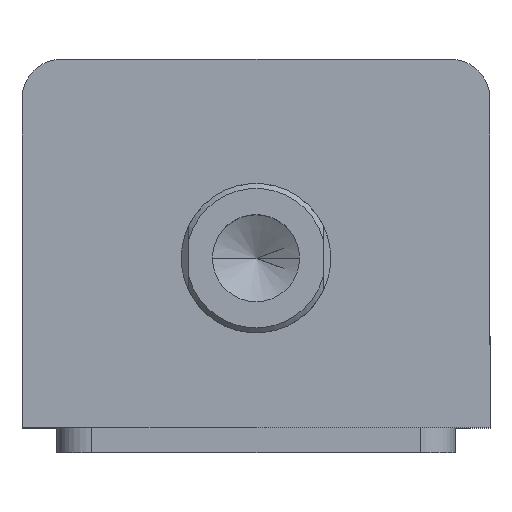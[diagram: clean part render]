
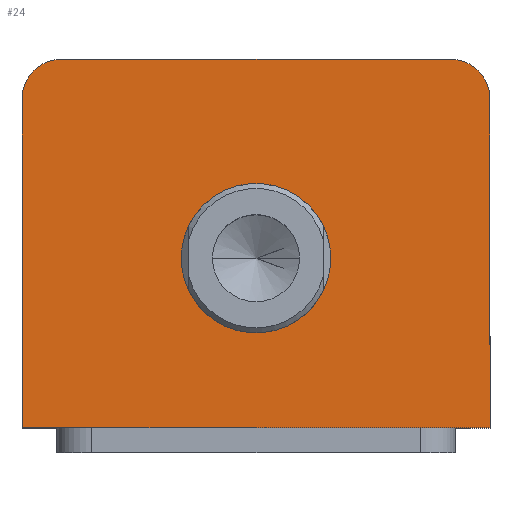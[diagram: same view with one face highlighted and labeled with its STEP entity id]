
A CAD part, top view. The second image highlights one B-rep face of the part: STEP entity #24.
In plain terms, the highlighted planar face has unit normal (0, 0, 1).
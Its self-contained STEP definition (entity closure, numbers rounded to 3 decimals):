
#24 = ADVANCED_FACE ( 'NONE', ( #1703, #1699 ), #2914, .T. ) ;
#120 = CARTESIAN_POINT ( 'NONE',  ( -39., 29., 75. ) ) ;
#136 = DIRECTION ( 'NONE',  ( 0., 0., 1. ) ) ;
#138 = CARTESIAN_POINT ( 'NONE',  ( 39., 29., 75. ) ) ;
#143 = DIRECTION ( 'NONE',  ( 1., 0., 0. ) ) ;
#152 = DIRECTION ( 'NONE',  ( 1., 0., 0. ) ) ;
#157 = DIRECTION ( 'NONE',  ( 0., 0., 1. ) ) ;
#200 = CIRCLE ( 'NONE', #1996, 15. ) ;
#427 = DIRECTION ( 'NONE',  ( 1., 0., 0. ) ) ;
#519 = CARTESIAN_POINT ( 'NONE',  ( 0., -3., 75. ) ) ;
#520 = DIRECTION ( 'NONE',  ( 0., 0., 1. ) ) ;
#521 = DIRECTION ( 'NONE',  ( 1., 0., 0. ) ) ;
#566 = CARTESIAN_POINT ( 'NONE',  ( -15., -3., 75. ) ) ;
#587 = CARTESIAN_POINT ( 'NONE',  ( 15., -3., 75. ) ) ;
#625 = CARTESIAN_POINT ( 'NONE',  ( -39., 37., 75. ) ) ;
#626 = CARTESIAN_POINT ( 'NONE',  ( -47., -37., 75. ) ) ;
#633 = CARTESIAN_POINT ( 'NONE',  ( -47., 29., 75. ) ) ;
#646 = CARTESIAN_POINT ( 'NONE',  ( 47., -37., 75. ) ) ;
#671 = CARTESIAN_POINT ( 'NONE',  ( 47., 29., 75. ) ) ;
#675 = CARTESIAN_POINT ( 'NONE',  ( 39., 37., 75. ) ) ;
#817 = CARTESIAN_POINT ( 'NONE',  ( 47., 37., 75. ) ) ;
#826 = AXIS2_PLACEMENT_3D ( 'NONE', #2919, #2905, #2904 ) ;
#912 = LINE ( 'NONE', #817, #914 ) ;
#914 = VECTOR ( 'NONE', #2794, 1000. ) ;
#1015 = EDGE_LOOP ( 'NONE', ( #2465, #2466, #2467, #2468, #2469, #2470 ) ) ;
#1040 = CARTESIAN_POINT ( 'NONE',  ( -47., -37., 75. ) ) ;
#1125 = EDGE_CURVE ( 'NONE', #1335, #1312, #1447, .T. ) ;
#1139 = EDGE_CURVE ( 'NONE', #2955, #2947, #1431, .T. ) ;
#1162 = EDGE_CURVE ( 'NONE', #2946, #2955, #1923, .T. ) ;
#1171 = EDGE_CURVE ( 'NONE', #2999, #3003, #1916, .T. ) ;
#1184 = EDGE_CURVE ( 'NONE', #3003, #2946, #2779, .T. ) ;
#1199 = EDGE_CURVE ( 'NONE', #2980, #2999, #912, .T. ) ;
#1214 = EDGE_CURVE ( 'NONE', #2947, #2980, #1874, .T. ) ;
#1251 = EDGE_CURVE ( 'NONE', #1312, #1335, #200, .T. ) ;
#1312 = VERTEX_POINT ( 'NONE', #566 ) ;
#1335 = VERTEX_POINT ( 'NONE', #587 ) ;
#1421 = VECTOR ( 'NONE', #2176, 1000. ) ;
#1431 = LINE ( 'NONE', #2201, #1421 ) ;
#1438 = DIRECTION ( 'NONE',  ( -1., 0., 0. ) ) ;
#1447 = CIRCLE ( 'NONE', #1947, 15. ) ;
#1452 = CARTESIAN_POINT ( 'NONE',  ( -47., 37., 75. ) ) ;
#1699 = FACE_OUTER_BOUND ( 'NONE', #1015, .T. ) ;
#1703 = FACE_BOUND ( 'NONE', #2416, .T. ) ;
#1873 = VECTOR ( 'NONE', #427, 1000. ) ;
#1874 = LINE ( 'NONE', #1040, #1873 ) ;
#1916 = CIRCLE ( 'NONE', #1967, 8. ) ;
#1923 = CIRCLE ( 'NONE', #1960, 8. ) ;
#1947 = AXIS2_PLACEMENT_3D ( 'NONE', #2207, #2206, #2205 ) ;
#1960 = AXIS2_PLACEMENT_3D ( 'NONE', #120, #136, #143 ) ;
#1967 = AXIS2_PLACEMENT_3D ( 'NONE', #138, #157, #152 ) ;
#1996 = AXIS2_PLACEMENT_3D ( 'NONE', #519, #520, #521 ) ;
#2176 = DIRECTION ( 'NONE',  ( 0., -1., 0. ) ) ;
#2201 = CARTESIAN_POINT ( 'NONE',  ( -47., 37., 75. ) ) ;
#2205 = DIRECTION ( 'NONE',  ( 1., 0., 0. ) ) ;
#2206 = DIRECTION ( 'NONE',  ( 0., 0., 1. ) ) ;
#2207 = CARTESIAN_POINT ( 'NONE',  ( 0., -3., 75. ) ) ;
#2416 = EDGE_LOOP ( 'NONE', ( #2463, #2464 ) ) ;
#2463 = ORIENTED_EDGE ( 'NONE', *, *, #1125, .F. ) ;
#2464 = ORIENTED_EDGE ( 'NONE', *, *, #1251, .F. ) ;
#2465 = ORIENTED_EDGE ( 'NONE', *, *, #1184, .T. ) ;
#2466 = ORIENTED_EDGE ( 'NONE', *, *, #1162, .T. ) ;
#2467 = ORIENTED_EDGE ( 'NONE', *, *, #1139, .T. ) ;
#2468 = ORIENTED_EDGE ( 'NONE', *, *, #1214, .T. ) ;
#2469 = ORIENTED_EDGE ( 'NONE', *, *, #1199, .T. ) ;
#2470 = ORIENTED_EDGE ( 'NONE', *, *, #1171, .T. ) ;
#2776 = VECTOR ( 'NONE', #1438, 1000. ) ;
#2779 = LINE ( 'NONE', #1452, #2776 ) ;
#2794 = DIRECTION ( 'NONE',  ( 0., 1., 0. ) ) ;
#2904 = DIRECTION ( 'NONE',  ( 1., 0., 0. ) ) ;
#2905 = DIRECTION ( 'NONE',  ( 0., 0., 1. ) ) ;
#2914 = PLANE ( 'NONE',  #826 ) ;
#2919 = CARTESIAN_POINT ( 'NONE',  ( 0., 0., 75. ) ) ;
#2946 = VERTEX_POINT ( 'NONE', #625 ) ;
#2947 = VERTEX_POINT ( 'NONE', #626 ) ;
#2955 = VERTEX_POINT ( 'NONE', #633 ) ;
#2980 = VERTEX_POINT ( 'NONE', #646 ) ;
#2999 = VERTEX_POINT ( 'NONE', #671 ) ;
#3003 = VERTEX_POINT ( 'NONE', #675 ) ;
